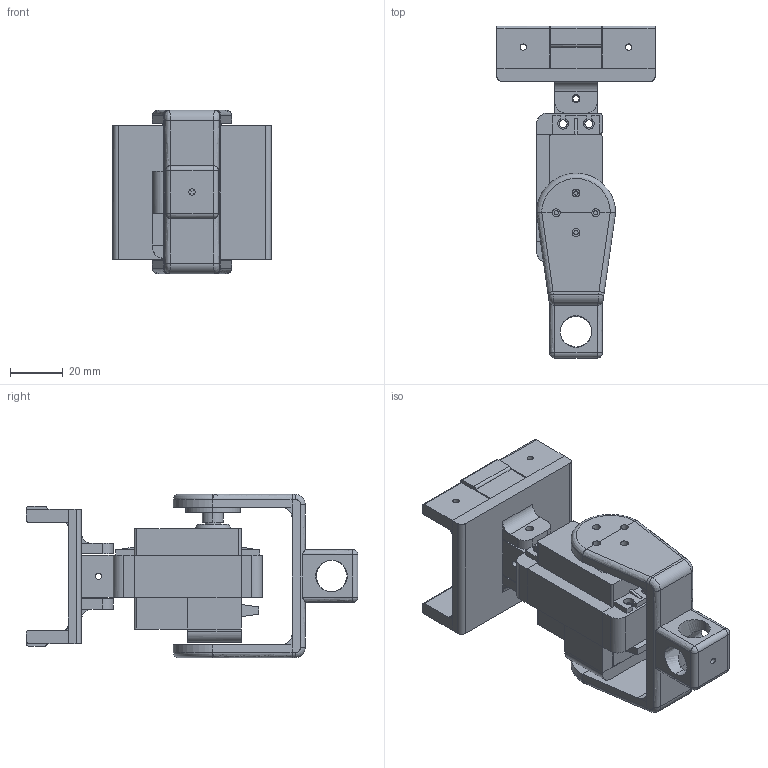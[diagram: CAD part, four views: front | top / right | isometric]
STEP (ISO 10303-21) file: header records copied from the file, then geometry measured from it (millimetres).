
FILE_DESCRIPTION(/* description */ (''),/* implementation_level */ '2;1');
FILE_NAME(/* name */ 'RODADA~1',/* time_stamp */ '2016-10-08T02:54:20-04:00',/* author */ (''),/* organization */ (''),/* preprocessor_version */ 'ST-DEVELOPER v15',/* originating_system */ '',/* authorisation */ '');
FILE_SCHEMA (('AUTOMOTIVE_DESIGN'));
Length unit declared in the file: millimetre
Products named in the file (1): Document
Bounding box: 60 x 125.85 x 62 mm (x, y, z)
Volume: 72278.1 mm3; surface area: 39569.8 mm2
Topology: 12 solids, 13 shells, 371 faces, 947 edges, 591 vertices
Faces by surface type: plane 198, bspline 173
Entity records: 11748 total; most frequent: CARTESIAN_POINT 5788, ORIENTED_EDGE 1886, EDGE_CURVE 947, VERTEX_POINT 591, B_SPLINE_CURVE_WITH_KNOTS 523, EDGE_LOOP 440, ADVANCED_FACE 371, FACE_OUTER_BOUND 371
